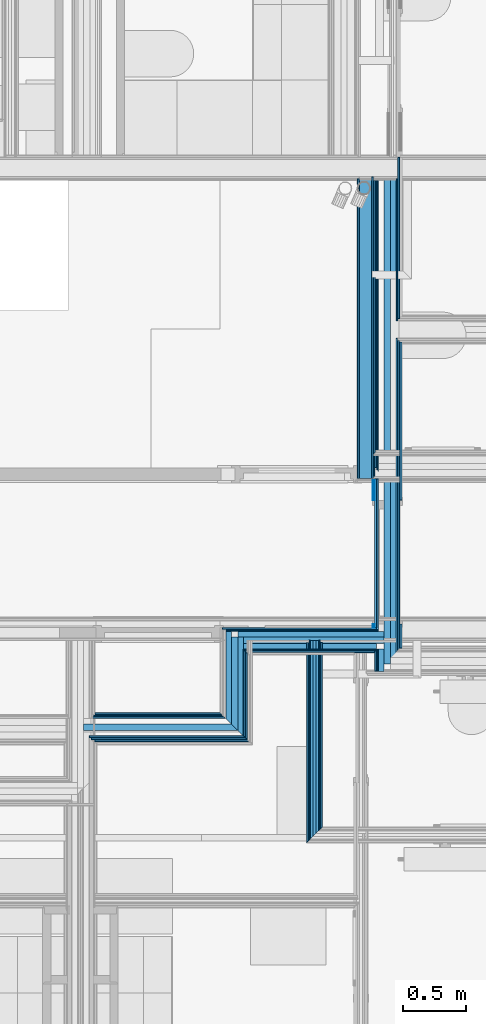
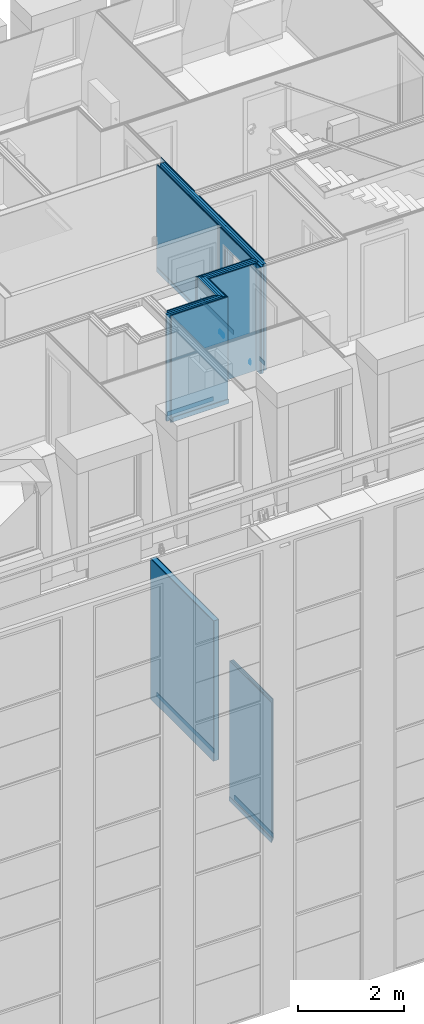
# One storey, part 23 of 169: 46 building element parts, 1 opening, 6 elements without a shape of their own.
"""IFC2X3 building model written with IfcOpenShell, lengths in metres."""

from ifc_helpers import new_model, entity, si_unit, converted_unit, derived_unit, money_unit, direction, frame, frame_2d, origin_with_axes, place, context, subcontext, project, spatial, polyline, rectangle, outline, extrude, material, type_object, element, aggregate, save


model = new_model("IFC2X3")

# Units and contexts
model_context = context("Model", 3, precision=1e-05, world=origin_with_axes(), true_north=direction((0.0, 1.0)))
body_context = subcontext(model_context, "Body", "Model", "MODEL_VIEW", scale=1.0)
ifc_project = project(units=[si_unit("LENGTHUNIT", "METRE"), si_unit("AREAUNIT", "SQUARE_METRE"), si_unit("VOLUMEUNIT", "CUBIC_METRE"), si_unit("ABSORBEDDOSEUNIT", "GRAY"), si_unit("AMOUNTOFSUBSTANCEUNIT", "MOLE"), si_unit("DOSEEQUIVALENTUNIT", "SIEVERT"), si_unit("ELECTRICCAPACITANCEUNIT", "FARAD"), si_unit("ELECTRICCHARGEUNIT", "COULOMB"), si_unit("ELECTRICCONDUCTANCEUNIT", "SIEMENS"), si_unit("ELECTRICCURRENTUNIT", "AMPERE"), si_unit("ELECTRICRESISTANCEUNIT", "OHM"), si_unit("ELECTRICVOLTAGEUNIT", "VOLT"), si_unit("ENERGYUNIT", "JOULE"), si_unit("FORCEUNIT", "NEWTON"), si_unit("FREQUENCYUNIT", "HERTZ"), si_unit("ILLUMINANCEUNIT", "LUX"), si_unit("INDUCTANCEUNIT", "HENRY"), si_unit("LUMINOUSFLUXUNIT", "LUMEN"), si_unit("LUMINOUSINTENSITYUNIT", "CANDELA"), si_unit("MAGNETICFLUXDENSITYUNIT", "TESLA"), si_unit("MAGNETICFLUXUNIT", "WEBER"), si_unit("MASSUNIT", "GRAM"), converted_unit("PLANEANGLEUNIT", "degree", entity("IfcReal", 0.0174532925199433), si_unit("PLANEANGLEUNIT", "RADIAN"), dimensions=[0, 0, 0, 0, 0, 0, 0]), si_unit("POWERUNIT", "WATT"), si_unit("PRESSUREUNIT", "PASCAL"), si_unit("RADIOACTIVITYUNIT", "BECQUEREL"), si_unit("SOLIDANGLEUNIT", "STERADIAN"), si_unit("THERMODYNAMICTEMPERATUREUNIT", "KELVIN"), si_unit("TIMEUNIT", "SECOND"), derived_unit("ACCELERATIONUNIT", [(si_unit("LENGTHUNIT", "METRE"), 1), (si_unit("TIMEUNIT", "SECOND"), -2)]), derived_unit("ANGULARVELOCITYUNIT", [(converted_unit("PLANEANGLEUNIT", "degree", entity("IfcReal", 0.0174532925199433), si_unit("PLANEANGLEUNIT", "RADIAN"), dimensions=[0, 0, 0, 0, 0, 0, 0]), 1), (si_unit("TIMEUNIT", "SECOND"), -1)]), derived_unit("CURVATUREUNIT", [(converted_unit("PLANEANGLEUNIT", "degree", entity("IfcReal", 0.0174532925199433), si_unit("PLANEANGLEUNIT", "RADIAN"), dimensions=[0, 0, 0, 0, 0, 0, 0]), 1), (si_unit("LENGTHUNIT", "METRE"), -1)]), derived_unit("DYNAMICVISCOSITYUNIT", [(si_unit("PRESSUREUNIT", "PASCAL"), 1), (si_unit("TIMEUNIT", "SECOND"), 1)]), derived_unit("HEATFLUXDENSITYUNIT", [(si_unit("POWERUNIT", "WATT"), 1), (si_unit("LENGTHUNIT", "METRE"), -2)]), derived_unit("HEATINGVALUEUNIT", [(si_unit("ENERGYUNIT", "JOULE"), 1), (si_unit("MASSUNIT", "GRAM"), -1)]), derived_unit("INTEGERCOUNTRATEUNIT", [(si_unit("TIMEUNIT", "SECOND"), -1)]), derived_unit("IONCONCENTRATIONUNIT", [(si_unit("MASSUNIT", "GRAM"), 1), (si_unit("VOLUMEUNIT", "CUBIC_METRE"), -1)]), derived_unit("ISOTHERMALMOISTURECAPACITYUNIT", [(si_unit("VOLUMEUNIT", "CUBIC_METRE"), 1), (si_unit("MASSUNIT", "GRAM"), -1)]), derived_unit("KINEMATICVISCOSITYUNIT", [(si_unit("AREAUNIT", "SQUARE_METRE"), 1), (si_unit("TIMEUNIT", "SECOND"), -1)]), derived_unit("LINEARFORCEUNIT", [(si_unit("FORCEUNIT", "NEWTON"), 1), (si_unit("LENGTHUNIT", "METRE"), -1)]), derived_unit("LINEARMOMENTUNIT", [(si_unit("FORCEUNIT", "NEWTON"), 1), (si_unit("LENGTHUNIT", "METRE"), -1)]), derived_unit("LINEARSTIFFNESSUNIT", [(si_unit("FORCEUNIT", "NEWTON"), 1), (si_unit("LENGTHUNIT", "METRE"), -1)]), derived_unit("LINEARVELOCITYUNIT", [(si_unit("LENGTHUNIT", "METRE"), 1), (si_unit("TIMEUNIT", "SECOND"), -1)]), derived_unit("LUMINOUSINTENSITYDISTRIBUTIONUNIT", [(si_unit("LUMINOUSINTENSITYUNIT", "CANDELA"), 1), (si_unit("LUMINOUSFLUXUNIT", "LUMEN"), -1)]), derived_unit("MASSDENSITYUNIT", [(si_unit("MASSUNIT", "GRAM"), 1), (si_unit("VOLUMEUNIT", "CUBIC_METRE"), -1)]), derived_unit("MASSFLOWRATEUNIT", [(si_unit("MASSUNIT", "GRAM"), 1), (si_unit("TIMEUNIT", "SECOND"), -1)]), derived_unit("MASSPERLENGTHUNIT", [(si_unit("MASSUNIT", "GRAM"), 1), (si_unit("LENGTHUNIT", "METRE"), -1)]), derived_unit("MODULUSOFELASTICITYUNIT", [(si_unit("FORCEUNIT", "NEWTON"), 1), (si_unit("AREAUNIT", "SQUARE_METRE"), -1)]), derived_unit("MODULUSOFLINEARSUBGRADEREACTIONUNIT", [(si_unit("FORCEUNIT", "NEWTON"), 1), (si_unit("LENGTHUNIT", "METRE"), -2)]), derived_unit("MODULUSOFROTATIONALSUBGRADEREACTIONUNIT", [(si_unit("FORCEUNIT", "NEWTON"), 1), (si_unit("LENGTHUNIT", "METRE"), 1)]), derived_unit("MODULUSOFSUBGRADEREACTIONUNIT", [(si_unit("FORCEUNIT", "NEWTON"), 1), (si_unit("VOLUMEUNIT", "CUBIC_METRE"), -1)]), derived_unit("MOISTUREDIFFUSIVITYUNIT", [(si_unit("VOLUMEUNIT", "CUBIC_METRE"), 1), (si_unit("TIMEUNIT", "SECOND"), -1)]), derived_unit("MOLECULARWEIGHTUNIT", [(si_unit("MASSUNIT", "GRAM"), 1), (si_unit("AMOUNTOFSUBSTANCEUNIT", "MOLE"), -1)]), derived_unit("PLANARFORCEUNIT", [(si_unit("FORCEUNIT", "NEWTON"), 1), (si_unit("LENGTHUNIT", "METRE"), -2)]), derived_unit("ROTATIONALFREQUENCYUNIT", [(si_unit("TIMEUNIT", "SECOND"), -1)]), derived_unit("ROTATIONALMASSUNIT", [(si_unit("MASSUNIT", "GRAM"), 1), (si_unit("LENGTHUNIT", "METRE"), 2)]), derived_unit("ROTATIONALSTIFFNESSUNIT", [(si_unit("FORCEUNIT", "NEWTON"), 1), (si_unit("LENGTHUNIT", "METRE"), 1), (converted_unit("PLANEANGLEUNIT", "degree", entity("IfcReal", 0.0174532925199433), si_unit("PLANEANGLEUNIT", "RADIAN"), dimensions=[0, 0, 0, 0, 0, 0, 0]), -1)]), derived_unit("SECTIONAREAINTEGRALUNIT", [(si_unit("LENGTHUNIT", "METRE"), 5)]), derived_unit("SECTIONMODULUSUNIT", [(si_unit("LENGTHUNIT", "METRE"), 3)]), derived_unit("SHEARMODULUSUNIT", [(si_unit("FORCEUNIT", "NEWTON"), 1), (si_unit("AREAUNIT", "SQUARE_METRE"), -1)]), derived_unit("SOUNDPOWERUNIT", [(si_unit("ENERGYUNIT", "JOULE"), 1), (si_unit("TIMEUNIT", "SECOND"), -1)]), derived_unit("SPECIFICHEATCAPACITYUNIT", [(si_unit("FORCEUNIT", "NEWTON"), 1), (si_unit("MASSUNIT", "GRAM"), -1), (si_unit("THERMODYNAMICTEMPERATUREUNIT", "KELVIN"), -1)]), derived_unit("TEMPERATUREGRADIENTUNIT", [(si_unit("THERMODYNAMICTEMPERATUREUNIT", "KELVIN"), 1), (si_unit("LENGTHUNIT", "METRE"), -1)]), derived_unit("THERMALADMITTANCEUNIT", [(si_unit("POWERUNIT", "WATT"), 1), (si_unit("AREAUNIT", "SQUARE_METRE"), -1), (si_unit("THERMODYNAMICTEMPERATUREUNIT", "KELVIN"), -1)]), derived_unit("THERMALCONDUCTANCEUNIT", [(si_unit("POWERUNIT", "WATT"), 1), (si_unit("LENGTHUNIT", "METRE"), -1), (si_unit("THERMODYNAMICTEMPERATUREUNIT", "KELVIN"), -1)]), derived_unit("THERMALEXPANSIONCOEFFICIENTUNIT", [(si_unit("THERMODYNAMICTEMPERATUREUNIT", "KELVIN"), -1)]), derived_unit("THERMALRESISTANCEUNIT", [(si_unit("AREAUNIT", "SQUARE_METRE"), 1), (si_unit("POWERUNIT", "WATT"), -1)]), derived_unit("THERMALTRANSMITTANCEUNIT", [(si_unit("POWERUNIT", "WATT"), 1), (si_unit("AREAUNIT", "SQUARE_METRE"), -1), (si_unit("THERMODYNAMICTEMPERATUREUNIT", "KELVIN"), -1)]), derived_unit("TORQUEUNIT", [(si_unit("FORCEUNIT", "NEWTON"), 1), (si_unit("LENGTHUNIT", "METRE"), 1)]), derived_unit("VAPORPERMEABILITYUNIT", [(si_unit("MASSUNIT", "GRAM"), 1), (si_unit("TIMEUNIT", "SECOND"), -1)]), derived_unit("VOLUMETRICFLOWRATEUNIT", [(si_unit("VOLUMEUNIT", "CUBIC_METRE"), 1), (si_unit("TIMEUNIT", "SECOND"), -1)]), derived_unit("WARPINGCONSTANTUNIT", [(si_unit("LENGTHUNIT", "METRE"), 6)]), derived_unit("WARPINGMOMENTUNIT", [(si_unit("FORCEUNIT", "NEWTON"), 1), (si_unit("LENGTHUNIT", "METRE"), 2)]), money_unit("GBP")], contexts=[model_context])

# Site, building, storey
site_placement = place(None, origin_with_axes())
site = spatial("IfcSite", under=ifc_project, at=site_placement, Name="Site", CompositionType="ELEMENT")
building_placement = place(site_placement, origin_with_axes())
building = spatial("IfcBuilding", under=site, at=building_placement, Name="Building01", CompositionType="ELEMENT")
storey_placement = place(building_placement, frame((0.0, 0.0, 5.15), z_axis=(0.0, 0.0, 1.0), x_axis=(1.0, 0.0, 0.0)))
storey = spatial("IfcBuildingStorey", under=building, at=storey_placement, Name="1F", CompositionType="ELEMENT", Elevation=5.15)

# Wall, building element parts
wall_type_1 = type_object("IfcWallType", Name="SHE_A-Walls_Type04a_BlockworkWall_130mm", PredefinedType="NOTDEFINED")
wall_1_placement = place(storey_placement, frame((15.715, 8.665, 0.0), z_axis=(0.0, 0.0, 1.0), x_axis=(0.0, -1.0, 0.0)))
wall_1 = element("IfcWall", 1, at=wall_1_placement, inside=storey, type_object=wall_type_1, Name="4A", ObjectType="SHE_A-Walls_Type04a_BlockworkWall_130mm")
ifc_material_1 = material(Name="A_BSUK_WallInternal_Finishes_Plasterboard")
placement_1 = place(wall_1_placement, origin_with_axes())
building_element_part_1 = element("IfcBuildingElementPart", 2, at=placement_1, material=ifc_material_1, Name="2", context=body_context, shape_type="SweptSolid", body=[
    extrude(rectangle(XDim=2.385, YDim=0.015, at=frame_2d((1.2075, -0.0075), x_axis=(-1.0, 0.0))), origin_with_axes(), (0.0, 0.0, 1.0), 3.24),
])
ifc_material_2 = material(Name="A_BSUK_WallsInternal_Block")
building_element_part_2 = element("IfcBuildingElementPart", 3, at=placement_1, material=ifc_material_2, Name="3", context=body_context, shape_type="SweptSolid", body=[
    extrude(rectangle(XDim=2.4, YDim=0.1, at=frame_2d((1.2, 0.05), x_axis=(-1.0, 0.0))), origin_with_axes(), (0.0, 0.0, 1.0), 3.24),
])
ifc_material_3 = material(Name="A_BSUK_WallInternal_Finishes_Plaster")
building_element_part_3 = element("IfcBuildingElementPart", 4, at=placement_1, material=ifc_material_3, Name="4", context=body_context, shape_type="SweptSolid", body=[
    extrude(rectangle(XDim=0.015, YDim=2.4, at=frame_2d((1.2, 0.1075), x_axis=(0.0, -1.0))), origin_with_axes(), (0.0, 0.0, 1.0), 3.24),
])
ifc_material_4 = material(Name="A_BSUK_Walls_Timber")
building_element_part_4 = element("IfcBuildingElementPart", 5, at=placement_1, material=ifc_material_4, Name="5", context=body_context, shape_type="SweptSolid", body=[
    extrude(outline(polyline([(2.19, 0.13), (0.03, 0.13), (0.03, 0.115), (2.205, 0.115), (2.19, 0.13)])), frame((0.0, 0.0, 0.015), z_axis=(0.0, 0.0, 1.0), x_axis=(1.0, 0.0, 0.0)), (0.0, 0.0, 1.0), 0.1),
])
aggregate(wall_1, [building_element_part_1, building_element_part_2, building_element_part_3, building_element_part_4])

wall_type_2 = type_object("IfcWallType", Name="SHE_A-Walls_Type05a_Partition_95mm_tall", PredefinedType="NOTDEFINED")
wall_2_placement = place(storey_placement, frame((15.3475, 3.42, 0.0), z_axis=(0.0, 0.0, 1.0), x_axis=(0.0, 1.0, 0.0)))
wall_2 = element("IfcWall", 6, at=wall_2_placement, inside=storey, type_object=wall_type_2, Name="5A", ObjectType="SHE_A-Walls_Type05a_Partition_95mm_tall")
placement_2 = place(wall_2_placement, origin_with_axes())
building_element_part_5 = element("IfcBuildingElementPart", 7, at=placement_2, material=ifc_material_4, Name="1", context=body_context, shape_type="SweptSolid", body=[
    extrude(outline(polyline([(1.545, -0.06), (0.06, -0.06), (0.075, -0.075), (1.545, -0.075), (1.545, -0.06)])), frame((0.0, 0.0, 0.015), z_axis=(0.0, 0.0, 1.0), x_axis=(1.0, 0.0, 0.0)), (0.0, 0.0, 1.0), 0.1),
])
building_element_part_6 = element("IfcBuildingElementPart", 8, at=placement_2, material=ifc_material_1, Name="2", context=body_context, shape_type="SweptSolid", body=[
    extrude(outline(polyline([(1.56, -0.048), (0.048, -0.048), (0.06, -0.06), (1.56, -0.06), (1.56, -0.048)])), origin_with_axes(), (0.0, 0.0, 1.0), 3.24),
])
ifc_material_5 = material(Name="Air Cavity")
building_element_part_7 = element("IfcBuildingElementPart", 9, at=placement_2, material=ifc_material_5, Name="3", context=body_context, shape_type="SweptSolid", body=[
    extrude(outline(polyline([(1.56, -0.025), (0.025, -0.025), (0.048, -0.048), (1.56, -0.048), (1.56, -0.025)])), origin_with_axes(), (0.0, 0.0, 1.0), 3.24),
])
ifc_material_6 = material(Name="A_BSUK_Insulation")
building_element_part_8 = element("IfcBuildingElementPart", 10, at=placement_2, material=ifc_material_6, Name="4", context=body_context, shape_type="SweptSolid", body=[
    extrude(outline(polyline([(1.56, 0.0), (0.0, 0.0), (0.025, -0.025), (1.56, -0.025), (1.56, 0.0)])), origin_with_axes(), (0.0, 0.0, 1.0), 3.24),
])
building_element_part_9 = element("IfcBuildingElementPart", 11, at=placement_2, material=ifc_material_5, Name="5", context=body_context, shape_type="SweptSolid", body=[
    extrude(outline(polyline([(1.56, 0.023), (-0.023, 0.023), (0.0, 0.0), (1.56, 0.0), (1.56, 0.023)])), origin_with_axes(), (0.0, 0.0, 1.0), 3.24),
])
building_element_part_10 = element("IfcBuildingElementPart", 12, at=placement_2, material=ifc_material_1, Name="6", context=body_context, shape_type="SweptSolid", body=[
    extrude(outline(polyline([(1.56, 0.035), (-0.035, 0.035), (-0.023, 0.023), (1.56, 0.023), (1.56, 0.035)])), origin_with_axes(), (0.0, 0.0, 1.0), 3.24),
])
building_element_part_11 = element("IfcBuildingElementPart", 13, at=placement_2, material=ifc_material_4, Name="7", context=body_context, shape_type="SweptSolid", body=[
    extrude(outline(polyline([(1.545, 0.05), (-0.05, 0.05), (-0.035, 0.035), (1.545, 0.035), (1.545, 0.05)])), frame((0.0, 0.0, 0.015), z_axis=(0.0, 0.0, 1.0), x_axis=(1.0, 0.0, 0.0)), (0.0, 0.0, 1.0), 0.1),
])
aggregate(wall_2, [building_element_part_5, building_element_part_6, building_element_part_7, building_element_part_8, building_element_part_9, building_element_part_10, building_element_part_11])

wall_type_3 = type_object("IfcWallType", Name="SHE_A-Walls_Type01d_Partywall_200mm_twin", PredefinedType="NOTDEFINED")
wall_3_placement = place(storey_placement, frame((14.7, 5.005, 9.83), z_axis=(0.0, 0.0, 1.0), x_axis=(0.0, -1.0, 0.0)))
wall_3 = element("IfcWall", 14, at=wall_3_placement, inside=storey, type_object=wall_type_3, Name="1D", ObjectType="SHE_A-Walls_Type01d_Partywall_200mm_twin")
placement_3 = place(wall_3_placement, origin_with_axes())
building_element_part_12 = element("IfcBuildingElementPart", 15, at=placement_3, material=ifc_material_5, Name="4", context=body_context, shape_type="SweptSolid", body=[
    extrude(outline(polyline([(0.690572, 0.0), (-0.06, 0.0), (-0.06, -0.045), (0.645572, -0.045), (0.690572, 0.0)])), origin_with_axes(), (0.0, 0.0, 1.0), 2.468),
])
building_element_part_13 = element("IfcBuildingElementPart", 16, at=placement_3, material=ifc_material_6, Name="5", context=body_context, shape_type="SweptSolid", body=[
    extrude(outline(polyline([(0.740572, 0.05), (0.0, 0.05), (0.0, 0.0), (0.690572, 0.0), (0.740572, 0.05)])), origin_with_axes(), (0.0, 0.0, 1.0), 2.468),
])
building_element_part_14 = element("IfcBuildingElementPart", 17, at=placement_3, material=ifc_material_5, Name="6", context=body_context, shape_type="SweptSolid", body=[
    extrude(outline(polyline([(0.785572, 0.095), (0.0, 0.095), (0.0, 0.05), (0.740572, 0.05), (0.785572, 0.095)])), origin_with_axes(), (0.0, 0.0, 1.0), 2.468),
])
building_element_part_15 = element("IfcBuildingElementPart", 18, at=placement_3, material=ifc_material_1, Name="7", context=body_context, shape_type="SweptSolid", body=[
    extrude(outline(polyline([(0.800572, 0.11), (0.11, 0.11), (0.11, 0.095), (0.785572, 0.095), (0.800572, 0.11)])), origin_with_axes(), (0.0, 0.0, 1.0), 2.468),
])
building_element_part_16 = element("IfcBuildingElementPart", 19, at=placement_3, material=ifc_material_1, Name="8", context=body_context, shape_type="SweptSolid", body=[
    extrude(outline(polyline([(0.815572, 0.125), (0.125, 0.125), (0.125, 0.11), (0.800572, 0.11), (0.815572, 0.125)])), origin_with_axes(), (0.0, 0.0, 1.0), 2.468),
])
aggregate(wall_3, [building_element_part_12, building_element_part_13, building_element_part_14, building_element_part_15, building_element_part_16])

wall_4_placement = place(storey_placement, frame((14.7, 4.314428, 9.83), z_axis=(0.0, 0.0, 1.0), x_axis=(-1.0, 0.0, 0.0)))
wall_4 = element("IfcWall", 20, at=wall_4_placement, inside=storey, type_object=wall_type_3, Name="1D", ObjectType="SHE_A-Walls_Type01d_Partywall_200mm_twin")
placement_4 = place(wall_4_placement, origin_with_axes())
building_element_part_17 = element("IfcBuildingElementPart", 21, at=placement_4, material=ifc_material_4, Name="1", context=body_context, shape_type="SweptSolid", body=[
    extrude(outline(polyline([(1.085, -0.075), (0.075, -0.075), (0.09, -0.09), (1.085, -0.09), (1.085, -0.075)])), frame((0.0, 0.0, 0.015), z_axis=(0.0, 0.0, 1.0), x_axis=(1.0, 0.0, 0.0)), (0.0, 0.0, 1.0), 0.1),
])
building_element_part_18 = element("IfcBuildingElementPart", 22, at=placement_4, material=ifc_material_1, Name="3", context=body_context, shape_type="SweptSolid", body=[
    extrude(outline(polyline([(1.1, -0.06), (0.06, -0.06), (0.075, -0.075), (1.1, -0.075), (1.1, -0.06)])), origin_with_axes(), (0.0, 0.0, 1.0), 2.468),
])
building_element_part_19 = element("IfcBuildingElementPart", 23, at=placement_4, material=ifc_material_1, Name="5", context=body_context, shape_type="SweptSolid", body=[
    extrude(outline(polyline([(1.115, -0.045), (0.045, -0.045), (0.06, -0.06), (1.115, -0.06), (1.115, -0.045)])), origin_with_axes(), (0.0, 0.0, 1.0), 2.468),
])
building_element_part_20 = element("IfcBuildingElementPart", 24, at=placement_4, material=ifc_material_6, Name="8", context=body_context, shape_type="SweptSolid", body=[
    extrude(outline(polyline([(1.175, 0.05), (-0.05, 0.05), (0.0, 0.0), (1.175, 0.0), (1.175, 0.05)])), origin_with_axes(), (0.0, 0.0, 1.0), 2.468),
])
building_element_part_21 = element("IfcBuildingElementPart", 25, at=placement_4, material=ifc_material_1, Name="11", context=body_context, shape_type="SweptSolid", body=[
    extrude(outline(polyline([(1.13, 0.11), (-0.11, 0.11), (-0.095, 0.095), (1.13, 0.095), (1.13, 0.11)])), origin_with_axes(), (0.0, 0.0, 1.0), 2.468),
])
building_element_part_22 = element("IfcBuildingElementPart", 26, at=placement_4, material=ifc_material_1, Name="13", context=body_context, shape_type="SweptSolid", body=[
    extrude(outline(polyline([(1.115, 0.125), (-0.125, 0.125), (-0.11, 0.11), (1.115, 0.11), (1.115, 0.125)])), origin_with_axes(), (0.0, 0.0, 1.0), 2.468),
])
building_element_part_23 = element("IfcBuildingElementPart", 27, at=placement_4, material=ifc_material_4, Name="15", context=body_context, shape_type="SweptSolid", body=[
    extrude(outline(polyline([(1.085, 0.14), (-0.14, 0.14), (-0.125, 0.125), (1.085, 0.125), (1.085, 0.14)])), frame((0.0, 0.0, 0.015), z_axis=(0.0, 0.0, 1.0), x_axis=(1.0, 0.0, 0.0)), (0.0, 0.0, 1.0), 0.1),
])
aggregate(wall_4, [building_element_part_17, building_element_part_18, building_element_part_19, building_element_part_20, building_element_part_21, building_element_part_22, building_element_part_23])

# Wall, opening, building element parts
wall_type_4 = type_object("IfcWallType", Name="SHE_A-Walls_Type03b_Firewall_200mm_twin", PredefinedType="NOTDEFINED")
wall_5_placement = place(storey_placement, frame((15.91344, 8.65, 9.83), z_axis=(0.0, 0.0, 1.0), x_axis=(0.0, -1.0, 0.0)))
wall_5 = element("IfcWall", 28, at=wall_5_placement, inside=storey, type_object=wall_type_4, Name="3B", ObjectType="SHE_A-Walls_Type03b_Firewall_200mm_twin")
opening_placement = place(wall_5_placement, frame((2.558, 0.14, 0.0), z_axis=(0.0, 0.0, 1.0), x_axis=(1.0, 0.0, 0.0)))
element("IfcOpeningElement", 29, at=opening_placement, cuts=wall_5, Name="Opening", ObjectType="Opening", context=body_context, shape_type="SweptSolid", body=[
    extrude(rectangle(XDim=2.142, YDim=0.984, at=frame_2d((0.492, 1.071), x_axis=(0.0, -1.0))), frame((0.0, 0.0, 0.0), z_axis=(0.0, -1.0, 0.0), x_axis=(1.0, 0.0, 0.0)), (0.0, 0.0, 1.0), 0.23),
])
placement_5 = place(wall_5_placement, origin_with_axes())
building_element_part_24 = element("IfcBuildingElementPart", 30, at=placement_5, material=ifc_material_4, Name="1", context=body_context, shape_type="SweptSolid", body=[
    extrude(rectangle(XDim=0.015, YDim=3.527, at=frame_2d((1.7785, -0.0825), x_axis=(0.0, -1.0))), frame((0.0, 0.0, 0.015), z_axis=(0.0, 0.0, 1.0), x_axis=(1.0, 0.0, 0.0)), (0.0, 0.0, 1.0), 0.1),
])
building_element_part_25 = element("IfcBuildingElementPart", 31, at=placement_5, material=ifc_material_4, Name="2", context=body_context, shape_type="SweptSolid", body=[
    extrude(rectangle(XDim=1.17, YDim=0.015, at=frame_2d((2.985, -0.0825), x_axis=(-1.0, 0.0))), frame((0.0, 0.0, 0.015), z_axis=(0.0, 0.0, 1.0), x_axis=(1.0, 0.0, 0.0)), (0.0, 0.0, 1.0), 0.1),
])
building_element_part_26 = element("IfcBuildingElementPart", 32, at=placement_5, material=ifc_material_1, Name="3", context=body_context, shape_type="SweptSolid", body=[
    extrude(rectangle(XDim=2.3, YDim=0.015, at=frame_2d((1.15, -0.0675), x_axis=(-1.0, 0.0))), origin_with_axes(), (0.0, 0.0, 1.0), 2.468),
])
building_element_part_27 = element("IfcBuildingElementPart", 33, at=placement_5, material=ifc_material_1, Name="4", context=body_context, shape_type="SweptSolid", body=[
    extrude(rectangle(XDim=1.183, YDim=0.015, at=frame_2d((2.9785, -0.0675), x_axis=(-1.0, 0.0))), origin_with_axes(), (0.0, 0.0, 1.0), 2.468),
])
building_element_part_28 = element("IfcBuildingElementPart", 34, at=placement_5, material=ifc_material_1, Name="5", context=body_context, shape_type="SweptSolid", body=[
    extrude(rectangle(XDim=0.163, YDim=0.015, at=frame_2d((3.8365, -0.0675), x_axis=(-1.0, 0.0))), origin_with_axes(), (0.0, 0.0, 1.0), 2.468),
])
building_element_part_29 = element("IfcBuildingElementPart", 35, at=placement_5, material=ifc_material_1, Name="6", context=body_context, shape_type="SweptSolid", body=[
    extrude(outline(polyline([(2.325, -0.045), (0.0, -0.045), (0.0, -0.06), (2.313, -0.06), (2.325, -0.045)])), origin_with_axes(), (0.0, 0.0, 1.0), 2.468),
])
building_element_part_30 = element("IfcBuildingElementPart", 36, at=placement_5, material=ifc_material_1, Name="7", context=body_context, shape_type="SweptSolid", body=[
    extrude(rectangle(XDim=1.198, YDim=0.015, at=frame_2d((2.986, -0.0525), x_axis=(-1.0, 0.0))), origin_with_axes(), (0.0, 0.0, 1.0), 2.468),
])
building_element_part_31 = element("IfcBuildingElementPart", 37, at=placement_5, material=ifc_material_1, Name="8", context=body_context, shape_type="SweptSolid", body=[
    extrude(rectangle(XDim=0.178, YDim=0.015, at=frame_2d((3.829, -0.0525), x_axis=(-1.0, 0.0))), origin_with_axes(), (0.0, 0.0, 1.0), 2.468),
])
building_element_part_32 = element("IfcBuildingElementPart", 38, at=placement_5, material=ifc_material_5, Name="9", context=body_context, shape_type="SweptSolid", body=[
    extrude(rectangle(XDim=0.178, YDim=0.045, at=frame_2d((3.829, -0.0225), x_axis=(-1.0, 0.0))), origin_with_axes(), (0.0, 0.0, 1.0), 2.468),
])
building_element_part_33 = element("IfcBuildingElementPart", 39, at=placement_5, material=ifc_material_6, Name="10", context=body_context, shape_type="SweptSolid", body=[
    extrude(rectangle(XDim=3.858, YDim=0.05, at=frame_2d((1.929, 0.025), x_axis=(-1.0, 0.0))), origin_with_axes(), (0.0, 0.0, 1.0), 2.468),
])
building_element_part_34 = element("IfcBuildingElementPart", 40, at=placement_5, material=ifc_material_5, Name="11", context=body_context, shape_type="SweptSolid", body=[
    extrude(rectangle(XDim=3.858, YDim=0.045, at=frame_2d((1.929, 0.0725), x_axis=(-1.0, 0.0))), origin_with_axes(), (0.0, 0.0, 1.0), 2.468),
])
building_element_part_35 = element("IfcBuildingElementPart", 41, at=placement_5, material=ifc_material_1, Name="12", context=body_context, shape_type="SweptSolid", body=[
    extrude(rectangle(XDim=1.130085, YDim=0.015, at=frame_2d((0.565042, 0.1025), x_axis=(-1.0, 0.0))), origin_with_axes(), (0.0, 0.0, 1.0), 2.468),
])
building_element_part_36 = element("IfcBuildingElementPart", 42, at=placement_5, material=ifc_material_1, Name="13", context=body_context, shape_type="SweptSolid", body=[
    extrude(outline(polyline([(3.748, 0.11), (1.270085, 0.11), (1.270085, 0.095), (3.763, 0.095), (3.748, 0.11)])), origin_with_axes(), (0.0, 0.0, 1.0), 2.468),
])
building_element_part_37 = element("IfcBuildingElementPart", 43, at=placement_5, material=ifc_material_1, Name="14", context=body_context, shape_type="SweptSolid", body=[
    extrude(rectangle(XDim=1.285085, YDim=0.015, at=frame_2d((0.472542, 0.1175), x_axis=(-1.0, 0.0))), origin_with_axes(), (0.0, 0.0, 1.0), 2.468),
])
building_element_part_38 = element("IfcBuildingElementPart", 44, at=placement_5, material=ifc_material_1, Name="15", context=body_context, shape_type="SweptSolid", body=[
    extrude(outline(polyline([(3.733, 0.125), (1.285085, 0.125), (1.285085, 0.11), (3.748, 0.11), (3.733, 0.125)])), origin_with_axes(), (0.0, 0.0, 1.0), 2.468),
])
building_element_part_39 = element("IfcBuildingElementPart", 45, at=placement_5, material=ifc_material_4, Name="16", context=body_context, shape_type="SweptSolid", body=[
    extrude(rectangle(XDim=2.432915, YDim=0.015, at=frame_2d((2.516542, 0.1325), x_axis=(-1.0, 0.0))), frame((0.0, 0.0, 0.015), z_axis=(0.0, 0.0, 1.0), x_axis=(1.0, 0.0, 0.0)), (0.0, 0.0, 1.0), 0.1),
])
aggregate(wall_5, [building_element_part_24, building_element_part_25, building_element_part_26, building_element_part_27, building_element_part_28, building_element_part_29, building_element_part_30, building_element_part_31, building_element_part_32, building_element_part_33, building_element_part_34, building_element_part_35, building_element_part_36, building_element_part_37, building_element_part_38, building_element_part_39])

# Wall, building element parts
wall_6_placement = place(storey_placement, frame((14.75, 4.955, 9.83), z_axis=(0.0, 0.0, 1.0), x_axis=(1.0, 0.0, 0.0)))
wall_6 = element("IfcWall", 46, at=wall_6_placement, inside=storey, type_object=wall_type_3, Name="1D", ObjectType="SHE_A-Walls_Type01d_Partywall_200mm_twin")
placement_6 = place(wall_6_placement, origin_with_axes())
building_element_part_40 = element("IfcBuildingElementPart", 47, at=placement_6, material=ifc_material_1, Name="2", context=body_context, shape_type="SweptSolid", body=[
    extrude(rectangle(XDim=1.02844, YDim=0.015, at=frame_2d((0.57422, -0.0675), x_axis=(-1.0, 0.0))), origin_with_axes(), (0.0, 0.0, 1.0), 2.468),
])
building_element_part_41 = element("IfcBuildingElementPart", 48, at=placement_6, material=ifc_material_1, Name="3", context=body_context, shape_type="SweptSolid", body=[
    extrude(rectangle(XDim=1.05844, YDim=0.015, at=frame_2d((0.57422, -0.0525), x_axis=(-1.0, 0.0))), origin_with_axes(), (0.0, 0.0, 1.0), 2.468),
])
building_element_part_42 = element("IfcBuildingElementPart", 49, at=placement_6, material=ifc_material_5, Name="4", context=body_context, shape_type="SweptSolid", body=[
    extrude(rectangle(XDim=1.05844, YDim=0.045, at=frame_2d((0.57422, -0.0225), x_axis=(-1.0, 0.0))), origin_with_axes(), (0.0, 0.0, 1.0), 2.468),
])
building_element_part_43 = element("IfcBuildingElementPart", 50, at=placement_6, material=ifc_material_6, Name="5", context=body_context, shape_type="SweptSolid", body=[
    extrude(rectangle(XDim=1.16344, YDim=0.05, at=frame_2d((0.58172, 0.025), x_axis=(-1.0, 0.0))), origin_with_axes(), (0.0, 0.0, 1.0), 2.468),
])
building_element_part_44 = element("IfcBuildingElementPart", 51, at=placement_6, material=ifc_material_5, Name="6", context=body_context, shape_type="SweptSolid", body=[
    extrude(rectangle(XDim=1.16344, YDim=0.045, at=frame_2d((0.58172, 0.0725), x_axis=(-1.0, 0.0))), origin_with_axes(), (0.0, 0.0, 1.0), 2.468),
])
building_element_part_45 = element("IfcBuildingElementPart", 52, at=placement_6, material=ifc_material_1, Name="7", context=body_context, shape_type="SweptSolid", body=[
    extrude(rectangle(XDim=1.21344, YDim=0.015, at=frame_2d((0.51172, 0.1025), x_axis=(-1.0, 0.0))), origin_with_axes(), (0.0, 0.0, 1.0), 2.468),
])
building_element_part_46 = element("IfcBuildingElementPart", 53, at=placement_6, material=ifc_material_1, Name="8", context=body_context, shape_type="SweptSolid", body=[
    extrude(rectangle(XDim=1.22844, YDim=0.015, at=frame_2d((0.48922, 0.1175), x_axis=(-1.0, 0.0))), origin_with_axes(), (0.0, 0.0, 1.0), 2.468),
])
aggregate(wall_6, [building_element_part_40, building_element_part_41, building_element_part_42, building_element_part_43, building_element_part_44, building_element_part_45, building_element_part_46])

save(model, "model.ifc")
